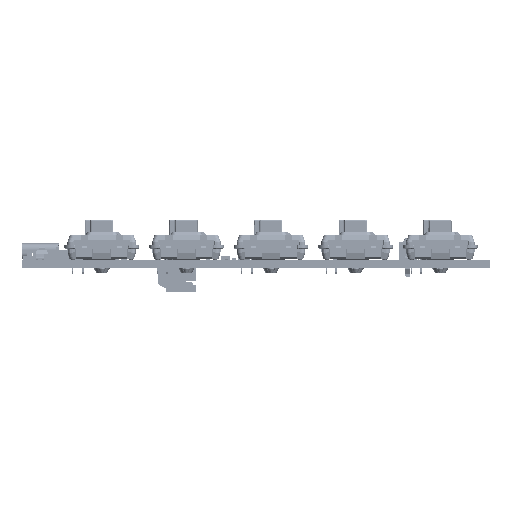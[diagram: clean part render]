
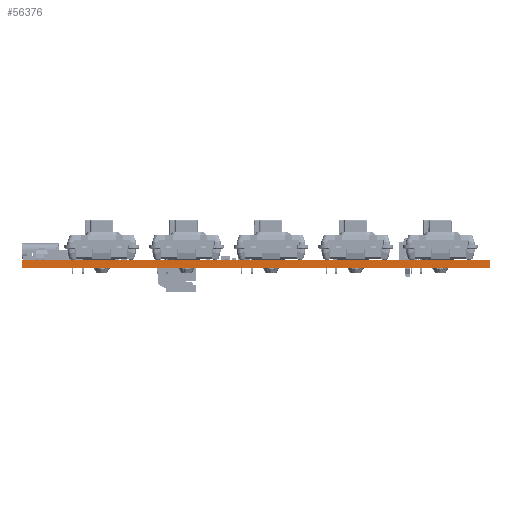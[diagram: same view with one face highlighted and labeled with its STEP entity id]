
A CAD part, left-side view. The second image highlights one B-rep face of the part: STEP entity #56376.
In plain terms, the highlighted planar face has unit normal (-1, 0, 0).
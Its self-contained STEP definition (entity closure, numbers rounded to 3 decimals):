
#56320 = VERTEX_POINT('',#56321);
#56321 = CARTESIAN_POINT('',(37.75,-127.685,1.51));
#56327 = EDGE_CURVE('',#56328,#56320,#56330,.T.);
#56328 = VERTEX_POINT('',#56329);
#56329 = CARTESIAN_POINT('',(37.75,-127.685,0.));
#56330 = LINE('',#56331,#56332);
#56331 = CARTESIAN_POINT('',(37.75,-127.685,0.));
#56332 = VECTOR('',#56333,1.);
#56333 = DIRECTION('',(0.,0.,1.));
#56376 = ADVANCED_FACE('',(#56377),#56402,.T.);
#56377 = FACE_BOUND('',#56378,.T.);
#56378 = EDGE_LOOP('',(#56379,#56380,#56388,#56396));
#56379 = ORIENTED_EDGE('',*,*,#56327,.T.);
#56380 = ORIENTED_EDGE('',*,*,#56381,.T.);
#56381 = EDGE_CURVE('',#56320,#56382,#56384,.T.);
#56382 = VERTEX_POINT('',#56383);
#56383 = CARTESIAN_POINT('',(37.75,-33.685,1.51));
#56384 = LINE('',#56385,#56386);
#56385 = CARTESIAN_POINT('',(37.75,-127.685,1.51));
#56386 = VECTOR('',#56387,1.);
#56387 = DIRECTION('',(0.,1.,0.));
#56388 = ORIENTED_EDGE('',*,*,#56389,.F.);
#56389 = EDGE_CURVE('',#56390,#56382,#56392,.T.);
#56390 = VERTEX_POINT('',#56391);
#56391 = CARTESIAN_POINT('',(37.75,-33.685,0.));
#56392 = LINE('',#56393,#56394);
#56393 = CARTESIAN_POINT('',(37.75,-33.685,0.));
#56394 = VECTOR('',#56395,1.);
#56395 = DIRECTION('',(0.,0.,1.));
#56396 = ORIENTED_EDGE('',*,*,#56397,.F.);
#56397 = EDGE_CURVE('',#56328,#56390,#56398,.T.);
#56398 = LINE('',#56399,#56400);
#56399 = CARTESIAN_POINT('',(37.75,-127.685,0.));
#56400 = VECTOR('',#56401,1.);
#56401 = DIRECTION('',(0.,1.,0.));
#56402 = PLANE('',#56403);
#56403 = AXIS2_PLACEMENT_3D('',#56404,#56405,#56406);
#56404 = CARTESIAN_POINT('',(37.75,-127.685,0.));
#56405 = DIRECTION('',(-1.,0.,0.));
#56406 = DIRECTION('',(0.,1.,0.));
